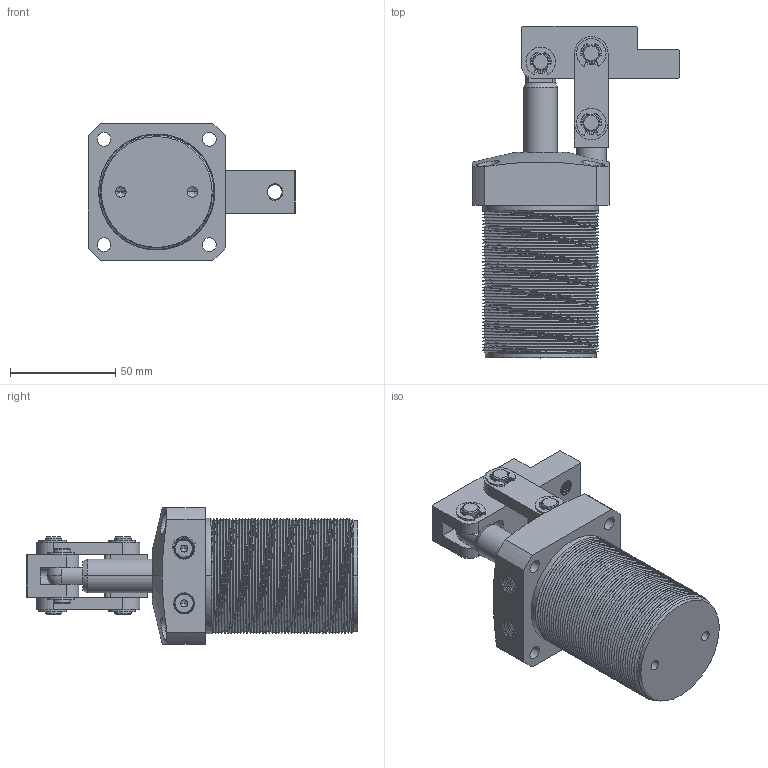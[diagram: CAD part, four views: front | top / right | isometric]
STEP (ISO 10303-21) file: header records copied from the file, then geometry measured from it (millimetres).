
FILE_DESCRIPTION((''),'2;1');
FILE_NAME('CPLCU-40_ASM','2010-03-01T',('Administrator'),(''),'PRO/ENGINEER BY PARAMETRIC TECHNOLOGY CORPORATION, 2007170','PRO/ENGINEER BY PARAMETRIC TECHNOLOGY CORPORATION, 2007170','');
FILE_SCHEMA(('CONFIG_CONTROL_DESIGN'));
Length unit declared in the file: millimetre
Products named in the file (10): CPLCU-40-07; CPLCU-40-05; CPLCU-40-06; CPLCU-40-01; CPLCU-40-02; CPLCU-40-08; CPLCU-40-03; CPLCU-40-04; LHC01D-40-08; CPLCU-40_ASM
Assembly tree (21 placements, depth 2):
  CPLCU-40_ASM
    CPLCU-40-07
    CPLCU-40-05
    CPLCU-40-06
    CPLCU-40-01
    CPLCU-40-02  x2
    CPLCU-40-08  x6
    CPLCU-40-03
    CPLCU-40-04  x2
    LHC01D-40-08  x6
Bounding box: 98.48 x 157.5 x 65 mm (x, y, z)
Volume: 260002.1 mm3; surface area: 83021.9 mm2
Topology: 21 solids, 21 shells, 769 faces, 1927 edges, 1222 vertices
Faces by surface type: cylinder 397, cone 148, plane 147, bspline 63, torus 12, sphere 2
Entity records: 38244 total; most frequent: CARTESIAN_POINT 25556, ORIENTED_EDGE 2794, DIRECTION 2244, EDGE_CURVE 1397, VERTEX_POINT 894, AXIS2_PLACEMENT_3D 845, EDGE_LOOP 609, VECTOR 554
